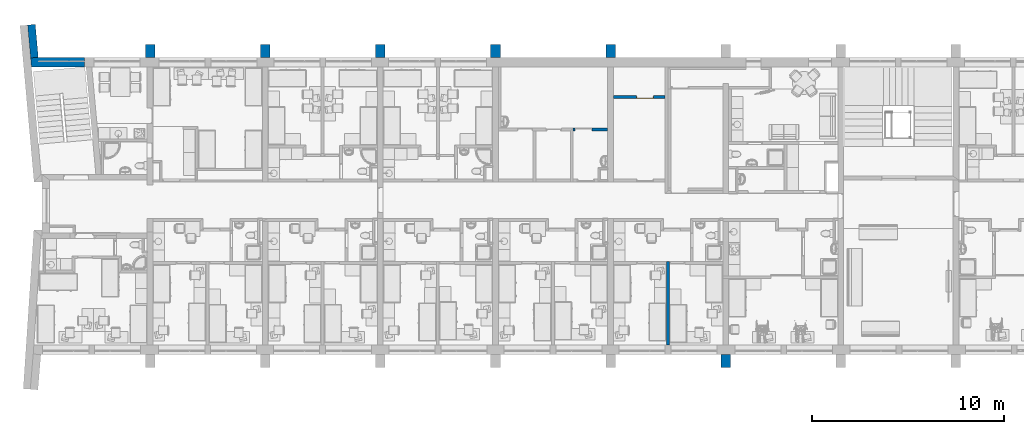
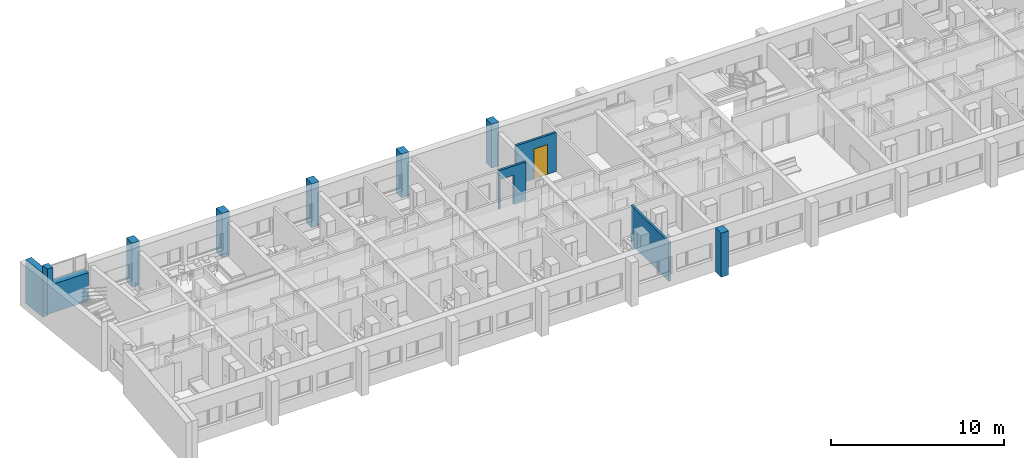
# One storey, part 9 of 172: 11 walls, 1 door, 3 openings.
"""IFC2X3 building model written with IfcOpenShell, lengths in millimetres."""

from ifc_helpers import new_model, entity, si_unit, converted_unit, money_unit, direction, frame, origin_with_axes, place, context, subcontext, project, spatial, polyline, outline, extrude, faceted_brep, source, transform, mapped, material, material_list, layer, layer_set, layer_usage, type_object, element, fill, save


model = new_model("IFC2X3")

# Units and contexts
model_context = context("Model", 3, precision=1e-05, world=origin_with_axes(), true_north=direction((0.0, 1.0)))
body_context = subcontext(model_context, "Body", "Model", "MODEL_VIEW")
ifc_project = project(units=[si_unit("LENGTHUNIT", "METRE", prefix="MILLI"), si_unit("AREAUNIT", "SQUARE_METRE"), si_unit("VOLUMEUNIT", "CUBIC_METRE"), converted_unit("PLANEANGLEUNIT", "DEGREE", entity("IfcPlaneAngleMeasure", 0.0174532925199), si_unit("PLANEANGLEUNIT", "RADIAN"), dimensions=[0, 0, 0, 0, 0, 0, 0]), si_unit("SOLIDANGLEUNIT", "STERADIAN"), money_unit("USD"), converted_unit("TIMEUNIT", "Year", entity("IfcTimeMeasure", 31556926.0), si_unit("TIMEUNIT", "SECOND"), dimensions=[0, 0, 0, 0, 0, 0, 0]), si_unit("MASSUNIT", "GRAM"), si_unit("THERMODYNAMICTEMPERATUREUNIT", "DEGREE_CELSIUS"), si_unit("LUMINOUSINTENSITYUNIT", "LUMEN")], contexts=[model_context])

# Site, building, storey
site_placement = place(None, origin_with_axes())
site = spatial("IfcSite", under=ifc_project, at=site_placement, Name="Site", CompositionType="ELEMENT")
building_placement = place(site_placement, origin_with_axes())
building = spatial("IfcBuilding", under=site, at=building_placement, Name="Building", CompositionType="ELEMENT")
storey_placement = place(building_placement, frame((0.0, 0.0, 3200.0), z_axis=(0.0, 0.0, 1.0), x_axis=(1.0, 0.0, 0.0)))
storey = spatial("IfcBuildingStorey", under=building, at=storey_placement, Name="3KORRUS", CompositionType="ELEMENT", Elevation=3200.0)

# Walls
ifc_material_1 = material(Name="Olemasolevad seinad tellis, uus viimistlus")
ifc_layer_1 = layer(ifc_material_1, 400.0, ventilated="UNKNOWN")
ifc_layer_set_1 = layer_set([ifc_layer_1], Name="Olemasolevad seinad tellis, uus viimistlus 400")
ifc_layer_usage_1 = layer_usage(ifc_layer_set_1, "AXIS2", "POSITIVE", 0.0)
wall_type_1 = type_object("IfcWallType", Name="Olemasolevad seinad tellis, uus viimistlus 400", PredefinedType="NOTDEFINED")
wall_1_placement = place(storey_placement, frame((-53969.3388124, -4639.6041088, 0.0), z_axis=(0.0, 0.0, 1.0), x_axis=(-0.0895981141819, 0.995978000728, 0.0)))
element("IfcWallStandardCase", 1, at=wall_1_placement, inside=storey, type_object=wall_type_1, material=ifc_layer_usage_1, Name="VS1", ObjectType="VS1", context=body_context, shape_type="SweptSolid", body=[
    extrude(outline(polyline([(0.0, 0.0), (1721.86022219, 0.0), (1721.86022219, 400.0), (0.0, 400.0), (0.0, 0.0)])), origin_with_axes(), (0.0, 0.0, 1.0), 3100.0),
])
ifc_layer_2 = layer(ifc_material_1, 500.0, ventilated="UNKNOWN")
ifc_layer_set_2 = layer_set([ifc_layer_2], Name="Olemasolevad seinad tellis, uus viimistlus 500")
ifc_layer_usage_2 = layer_usage(ifc_layer_set_2, "AXIS2", "POSITIVE", 0.0)
wall_type_2 = type_object("IfcWallType", Name="Olemasolevad seinad tellis, uus viimistlus 500", PredefinedType="NOTDEFINED")
wall_2_placement = place(storey_placement, frame((-47890.2967033, -4639.6041088, 0.0), z_axis=(0.0, 0.0, 1.0), x_axis=(0.0, 1.0, 0.0)))
element("IfcWallStandardCase", 2, at=wall_2_placement, inside=storey, type_object=wall_type_2, material=ifc_layer_usage_2, Name="VS1", ObjectType="VS1", context=body_context, shape_type="SweptSolid", body=[
    extrude(outline(polyline([(0.0, 0.0), (657.402041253, 0.0), (657.402041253, 500.0), (0.0, 500.0), (0.0, 0.0)])), origin_with_axes(), (0.0, 0.0, 1.0), 3100.0),
])
ifc_layer_usage_3 = layer_usage(ifc_layer_set_2, "AXIS2", "POSITIVE", -100.0)
wall_3_placement = place(storey_placement, frame((-23990.2967033, -4639.6041088, 0.0), z_axis=(0.0, 0.0, 1.0), x_axis=(0.0, 1.0, 0.0)))
element("IfcWallStandardCase", 3, at=wall_3_placement, inside=storey, type_object=wall_type_2, material=ifc_layer_usage_3, Name="VS1", ObjectType="VS1", context=body_context, shape_type="SweptSolid", body=[
    extrude(outline(polyline([(0.0, -100.0), (657.402041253, -100.0), (657.402041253, 400.0), (0.0, 400.0), (0.0, -100.0)])), origin_with_axes(), (0.0, 0.0, 1.0), 3100.0),
])
ifc_layer_usage_4 = layer_usage(ifc_layer_set_2, "AXIS2", "POSITIVE", -100.0)
wall_4_placement = place(storey_placement, frame((-35990.2967033, -4639.6041088, 0.0), z_axis=(0.0, 0.0, 1.0), x_axis=(0.0, 1.0, 0.0)))
element("IfcWallStandardCase", 4, at=wall_4_placement, inside=storey, type_object=wall_type_2, material=ifc_layer_usage_4, Name="VS1", ObjectType="VS1", context=body_context, shape_type="SweptSolid", body=[
    extrude(outline(polyline([(0.0, -100.0), (657.402041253, -100.0), (657.402041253, 400.0), (0.0, 400.0), (0.0, -100.0)])), origin_with_axes(), (0.0, 0.0, 1.0), 3100.0),
])
ifc_layer_usage_5 = layer_usage(ifc_layer_set_2, "AXIS2", "POSITIVE", -100.0)
wall_5_placement = place(storey_placement, frame((-41990.2967033, -4639.6041088, 0.0), z_axis=(0.0, 0.0, 1.0), x_axis=(0.0, 1.0, 0.0)))
element("IfcWallStandardCase", 5, at=wall_5_placement, inside=storey, type_object=wall_type_2, material=ifc_layer_usage_5, Name="VS1", ObjectType="VS1", context=body_context, shape_type="SweptSolid", body=[
    extrude(outline(polyline([(0.0, -100.0), (657.402041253, -100.0), (657.402041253, 400.0), (0.0, 400.0), (0.0, -100.0)])), origin_with_axes(), (0.0, 0.0, 1.0), 3100.0),
])
ifc_layer_usage_6 = layer_usage(ifc_layer_set_2, "AXIS2", "POSITIVE", -100.0)
wall_6_placement = place(storey_placement, frame((-29990.2967033, -4639.6041088, 0.0), z_axis=(0.0, 0.0, 1.0), x_axis=(0.0, 1.0, 0.0)))
element("IfcWallStandardCase", 6, at=wall_6_placement, inside=storey, type_object=wall_type_2, material=ifc_layer_usage_6, Name="VS1", ObjectType="VS1", context=body_context, shape_type="SweptSolid", body=[
    extrude(outline(polyline([(0.0, -100.0), (657.402041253, -100.0), (657.402041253, 400.0), (0.0, 400.0), (0.0, -100.0)])), origin_with_axes(), (0.0, 0.0, 1.0), 3100.0),
])

# Wall, opening
ifc_layer_usage_7 = layer_usage(ifc_layer_set_2, "AXIS2", "POSITIVE", -100.0)
wall_7_placement = place(storey_placement, frame((-54736.5854321, -5039.6041088, 460.0), z_axis=(0.0, 0.0, 1.0), x_axis=(1.0, 0.0, 0.0)))
wall_7 = element("IfcWallStandardCase", 7, at=wall_7_placement, inside=storey, type_object=wall_type_2, material=ifc_layer_usage_7, Name="VS1", ObjectType="VS1", context=body_context, shape_type="SweptSolid", body=[
    extrude(outline(polyline([(410.611289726, -100.0), (3167.24661967, -100.0), (3167.24661967, 400.0), (365.631323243, 400.0), (410.611289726, -100.0)])), origin_with_axes(), (0.0, 0.0, 1.0), 3200.0),
])
opening_1_placement = place(wall_7_placement, frame((1967.24661967, 0.0, 2000.0), z_axis=(0.0, 0.0, 1.0), x_axis=(1.0, 0.0, 0.0)))
element("IfcOpeningElement", 8, at=opening_1_placement, cuts=wall_7, Name="A2", context=body_context, shape_type="SweptSolid", body=[
    extrude(outline(polyline([(-1200.0, 1200.0), (-1200.0, 0.0), (1200.0, 0.0), (1200.0, 1200.0), (-1200.0, 1200.0)])), frame((0.0, 200.0, 0.0), z_axis=(0.0, -1.0, 0.0), x_axis=(1.0, 0.0, 0.0)), (0.0, 0.0, 1.0), 800.0),
    extrude(outline(polyline([(-1200.0, 0.0), (-1200.0, -1200.0), (1200.0, -1200.0), (1200.0, 0.0), (-1200.0, 0.0)])), frame((0.0, 200.0, 0.0), z_axis=(0.0, 1.0, 0.0), x_axis=(1.0, 0.0, 0.0)), (0.0, 0.0, 1.0), 700.0),
])

# Wall
ifc_layer_usage_8 = layer_usage(ifc_layer_set_2, "AXIS2", "POSITIVE", -100.0)
wall_8_placement = place(storey_placement, frame((-17990.2967033, -20796.6419407, 0.0), z_axis=(0.0, 0.0, 1.0), x_axis=(0.0, 1.0, 0.0)))
element("IfcWallStandardCase", 9, at=wall_8_placement, inside=storey, type_object=wall_type_2, material=ifc_layer_usage_8, Name="VS1", ObjectType="VS1", context=body_context, shape_type="SweptSolid", body=[
    extrude(outline(polyline([(0.0, -100.0), (657.402041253, -100.0), (657.402041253, 400.0), (0.0, 400.0), (0.0, -100.0)])), origin_with_axes(), (0.0, 0.0, 1.0), 3100.0),
])

# Wall, opening
ifc_material_2 = material(Name="UmbKipsplaat")
ifc_layer_3 = layer(ifc_material_2, 13.0, ventilated="UNKNOWN")
ifc_layer_4 = layer(ifc_material_2, 13.0, ventilated="UNKNOWN")
ifc_material_3 = material(Name="SOOJUSTUS MINERAALVILL")
ifc_layer_5 = layer(ifc_material_3, 98.0, ventilated="UNKNOWN")
ifc_layer_6 = layer(ifc_material_2, 13.0, ventilated="UNKNOWN")
ifc_layer_7 = layer(ifc_material_2, 13.0, ventilated="UNKNOWN")
ifc_layer_set_3 = layer_set([ifc_layer_3, ifc_layer_4, ifc_layer_5, ifc_layer_6, ifc_layer_7], Name="kipssein150")
ifc_layer_usage_9 = layer_usage(ifc_layer_set_3, "AXIS2", "POSITIVE", 0.0)
wall_type_3 = type_object("IfcWallType", Name="kipssein150 150", PredefinedType="NOTDEFINED")
wall_9_placement = place(storey_placement, frame((-23990.2967033, -8329.65401045, 0.0), z_axis=(0.0, 0.0, 1.0), x_axis=(-1.0, 0.0, 0.0)))
wall_9 = element("IfcWallStandardCase", 10, at=wall_9_placement, inside=storey, type_object=wall_type_3, material=ifc_layer_usage_9, Name="SS1", ObjectType="SS1", context=body_context, shape_type="SweptSolid", body=[
    extrude(outline(polyline([(300.0, 0.0), (2099.52662616, 0.0), (2099.52662616, 150.0), (300.0, 150.0), (300.0, 0.0)])), origin_with_axes(), (0.0, 0.0, 1.0), 2750.0),
])
opening_2_placement = place(wall_9_placement, frame((1559.83112198, 0.0, 0.0), z_axis=(0.0, 0.0, 1.0), x_axis=(1.0, 0.0, 0.0)))
element("IfcOpeningElement", 11, at=opening_2_placement, cuts=wall_9, Name="SU2-2", context=body_context, shape_type="SweptSolid", body=[
    extrude(outline(polyline([(-450.0, -2100.0), (450.0, -2100.0), (450.0, 0.0), (-450.0, 0.0), (-450.0, -2100.0)])), frame((0.0, 150.0, 0.0), z_axis=(0.0, -1.0, 0.0), x_axis=(-1.0, 0.0, 0.0)), (0.0, 0.0, 1.0), 450.0),
])

# Wall, opening, door
ifc_layer_usage_10 = layer_usage(ifc_layer_set_3, "AXIS2", "POSITIVE", 0.0)
wall_10_placement = place(storey_placement, frame((-23990.2967033, -6789.6041088, 0.0), z_axis=(0.0, 0.0, 1.0), x_axis=(1.0, 0.0, 0.0)))
wall_10 = element("IfcWallStandardCase", 12, at=wall_10_placement, inside=storey, type_object=wall_type_3, material=ifc_layer_usage_10, Name="SS1", ObjectType="SS1", context=body_context, shape_type="SweptSolid", body=[
    extrude(outline(polyline([(0.0, 0.0), (2696.4969239, 0.0), (2696.4969239, 150.0), (0.0, 150.0), (0.0, 0.0)])), origin_with_axes(), (0.0, 0.0, 1.0), 2750.0),
])
opening_3_placement = place(wall_10_placement, frame((1646.4969239, 0.0, 0.0), z_axis=(0.0, 0.0, 1.0), x_axis=(1.0, 0.0, 0.0)))
opening_3 = element("IfcOpeningElement", 13, at=opening_3_placement, cuts=wall_10, Name="SU2-4", context=body_context, shape_type="SweptSolid", body=[
    extrude(outline(polyline([(-450.0, -2100.0), (450.0, -2100.0), (450.0, 0.0), (-450.0, 0.0), (-450.0, -2100.0)])), frame((0.0, 150.0, 0.0), z_axis=(0.0, 1.0, 0.0), x_axis=(1.0, 0.0, 0.0)), (0.0, 0.0, -1.0), 450.0),
])
ifc_material_4 = material(Name="Background")
ifc_material_list = material_list([ifc_material_4])
door_style = type_object("IfcDoorStyle", Name="Door 19", ConstructionType="NOTDEFINED", OperationType="SINGLE_SWING_LEFT", ParameterTakesPrecedence=False, Sizeable=False)
shared_shape = source(origin_with_axes(), body_context, "Body", "Brep", [
    faceted_brep([(410.0, -40.0, 0.0), (410.0, -115.0, 0.0), (410.0, -115.0, 2060.0), (410.0, -40.0, 2060.0), (422.0, -40.0, 0.0), (422.0, 0.0, 0.0), (450.0, 0.0, 0.0), (450.0, -115.0, 0.0), (450.0, -115.0, 2060.0), (422.0, -40.0, 2060.0), (450.0, 0.0, 2060.0), (422.0, 0.0, 2060.0)], [[[0, 1, 2, 3]], [[4, 5, 6, 7, 1, 0]], [[2, 1, 7, 8]], [[9, 3, 2, 8, 10, 11]], [[9, 4, 0, 3]], [[11, 5, 4, 9]], [[11, 10, 6, 5]], [[7, 6, 10, 8]]]),
    faceted_brep([(-422.0, -40.0, 2060.0), (-422.0, 0.0, 2060.0), (-450.0, 0.0, 2060.0), (-450.0, -115.0, 2060.0), (-410.0, -115.0, 2060.0), (-410.0, -40.0, 2060.0), (-422.0, -40.0, 0.0), (-422.0, 0.0, 0.0), (-450.0, 0.0, 0.0), (-450.0, -115.0, 0.0), (-410.0, -115.0, 0.0), (-410.0, -40.0, 0.0)], [[[0, 1, 2, 3, 4, 5]], [[0, 6, 7, 1]], [[7, 8, 2, 1]], [[3, 2, 8, 9]], [[4, 3, 9, 10]], [[5, 4, 10, 11]], [[5, 11, 6, 0]], [[6, 11, 10, 9, 8, 7]]]),
    faceted_brep([(422.0, 0.0, 2072.0), (-422.0, 0.0, 2072.0), (-422.0, 0.0, 2060.0), (-450.0, 0.0, 2060.0), (-450.0, 0.0, 2100.0), (450.0, 0.0, 2100.0), (450.0, 0.0, 2060.0), (422.0, 0.0, 2060.0), (422.0, -40.0, 2072.0), (-422.0, -40.0, 2072.0), (-422.0, -40.0, 2060.0), (-410.0, -40.0, 2060.0), (-410.0, -115.0, 2060.0), (-450.0, -115.0, 2060.0), (-450.0, -115.0, 2100.0), (450.0, -115.0, 2100.0), (450.0, -115.0, 2060.0), (422.0, -40.0, 2060.0), (410.0, -115.0, 2060.0), (410.0, -40.0, 2060.0)], [[[0, 1, 2, 3, 4, 5, 6, 7]], [[0, 8, 9, 1]], [[1, 9, 10, 2]], [[10, 11, 12, 13, 3, 2]], [[14, 4, 3, 13]], [[15, 5, 4, 14]], [[16, 6, 5, 15]], [[17, 7, 6, 16, 18, 19]], [[7, 17, 8, 0]], [[10, 9, 8, 17, 19, 11]], [[19, 18, 12, 11]], [[13, 12, 18, 16, 15, 14]]]),
    faceted_brep([(-422.0, 0.0, 0.0), (422.0, 0.0, 0.0), (422.0, -40.0, 0.0), (-422.0, -40.0, 0.0), (-422.0, 0.0, 2072.0), (422.0, 0.0, 2072.0), (422.0, -40.0, 2072.0), (-422.0, -40.0, 2072.0)], [[[0, 1, 2, 3]], [[0, 4, 5, 1]], [[1, 5, 6, 2]], [[3, 2, 6, 7]], [[4, 0, 3, 7]], [[5, 4, 7, 6]]]),
])
door_placement = place(opening_3_placement, frame((450.0, 0.0, 0.0), z_axis=(0.0, 0.0, 1.0), x_axis=(-1.0, 0.0, 0.0)))
door = element("IfcDoor", 14, at=door_placement, inside=storey, type_object=door_style, material=ifc_material_list, Name="SU2-4", ObjectType="Abiruumi uks", OverallHeight=2100.0, OverallWidth=900.0, context=body_context, shape_type="MappedRepresentation", body=[
    mapped(shared_shape, transform((450.0, 0.0, 0.0))),
])
fill(opening_3, door)

# Wall
ifc_layer_usage_11 = layer_usage(ifc_layer_set_3, "AXIS2", "POSITIVE", 0.0)
wall_11_placement = place(storey_placement, frame((-21070.2967033, -19739.2398994, 0.0), z_axis=(0.0, 0.0, 1.0), x_axis=(0.0, 1.0, 0.0)))
element("IfcWallStandardCase", 15, at=wall_11_placement, inside=storey, type_object=wall_type_3, material=ifc_layer_usage_11, Name="SS1", ObjectType="SS1", context=body_context, shape_type="SweptSolid", body=[
    extrude(outline(polyline([(100.0, 0.0), (4450.0, 0.0), (4450.0, 150.0), (100.0, 150.0), (100.0, 0.0)])), origin_with_axes(), (0.0, 0.0, 1.0), 2750.0),
])

save(model, "model.ifc")
